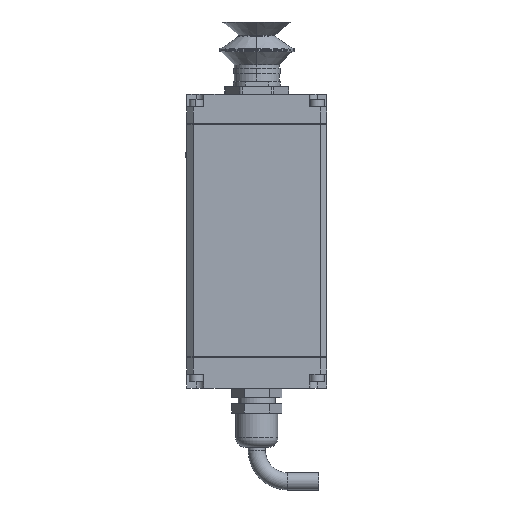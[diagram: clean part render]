
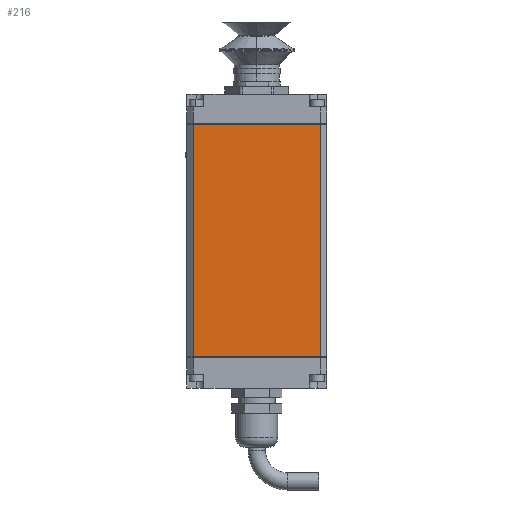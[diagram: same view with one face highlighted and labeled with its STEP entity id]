
A CAD part, front view. The second image highlights one B-rep face of the part: STEP entity #216.
In plain terms, the highlighted planar face has unit normal (0, -1, 0).
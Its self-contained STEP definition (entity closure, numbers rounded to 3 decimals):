
#216 = ADVANCED_FACE ( 'NONE', ( #10805 ), #36864, .F. ) ;
#591 = EDGE_CURVE ( 'NONE', #5212, #4893, #13072, .T. ) ;
#687 = VECTOR ( 'NONE', #27996, 1000. ) ;
#1421 = EDGE_CURVE ( 'NONE', #36961, #5212, #11548, .T. ) ;
#1510 = VECTOR ( 'NONE', #17941, 1000. ) ;
#2303 = DIRECTION ( 'NONE',  ( 0., 0., -1. ) ) ;
#3492 = CARTESIAN_POINT ( 'NONE',  ( 20.5, -22.5, -0.1 ) ) ;
#4893 = VERTEX_POINT ( 'NONE', #29812 ) ;
#5212 = VERTEX_POINT ( 'NONE', #8963 ) ;
#7751 = CARTESIAN_POINT ( 'NONE',  ( 20.5, -22.5, 0. ) ) ;
#8450 = LINE ( 'NONE', #7751, #687 ) ;
#8641 = AXIS2_PLACEMENT_3D ( 'NONE', #12877, #10904, #14928 ) ;
#8683 = ORIENTED_EDGE ( 'NONE', *, *, #13596, .T. ) ;
#8963 = CARTESIAN_POINT ( 'NONE',  ( -20.5, -22.5, -74.9 ) ) ;
#10805 = FACE_OUTER_BOUND ( 'NONE', #36610, .T. ) ;
#10904 = DIRECTION ( 'NONE',  ( 0., 1., 0. ) ) ;
#11263 = ORIENTED_EDGE ( 'NONE', *, *, #1421, .T. ) ;
#11548 = LINE ( 'NONE', #17830, #26050 ) ;
#12095 = CARTESIAN_POINT ( 'NONE',  ( -20.5, -22.5, -0.1 ) ) ;
#12877 = CARTESIAN_POINT ( 'NONE',  ( 22.5, -22.5, 0. ) ) ;
#13072 = LINE ( 'NONE', #30156, #20798 ) ;
#13093 = CARTESIAN_POINT ( 'NONE',  ( -20.5, -22.5, -0.1 ) ) ;
#13596 = EDGE_CURVE ( 'NONE', #31065, #36961, #16956, .T. ) ;
#14928 = DIRECTION ( 'NONE',  ( 0., 0., 1. ) ) ;
#16956 = LINE ( 'NONE', #12095, #1510 ) ;
#17830 = CARTESIAN_POINT ( 'NONE',  ( -20.5, -22.5, 0. ) ) ;
#17941 = DIRECTION ( 'NONE',  ( -1., 0., 0. ) ) ;
#20798 = VECTOR ( 'NONE', #29599, 1000. ) ;
#26050 = VECTOR ( 'NONE', #2303, 1000. ) ;
#27996 = DIRECTION ( 'NONE',  ( 0., 0., 1. ) ) ;
#29599 = DIRECTION ( 'NONE',  ( 1., 0., 0. ) ) ;
#29812 = CARTESIAN_POINT ( 'NONE',  ( 20.5, -22.5, -74.9 ) ) ;
#30156 = CARTESIAN_POINT ( 'NONE',  ( 22.5, -22.5, -74.9 ) ) ;
#31065 = VERTEX_POINT ( 'NONE', #3492 ) ;
#31339 = ORIENTED_EDGE ( 'NONE', *, *, #34465, .T. ) ;
#32126 = ORIENTED_EDGE ( 'NONE', *, *, #591, .T. ) ;
#34465 = EDGE_CURVE ( 'NONE', #4893, #31065, #8450, .T. ) ;
#36610 = EDGE_LOOP ( 'NONE', ( #31339, #8683, #11263, #32126 ) ) ;
#36864 = PLANE ( 'NONE',  #8641 ) ;
#36961 = VERTEX_POINT ( 'NONE', #13093 ) ;
